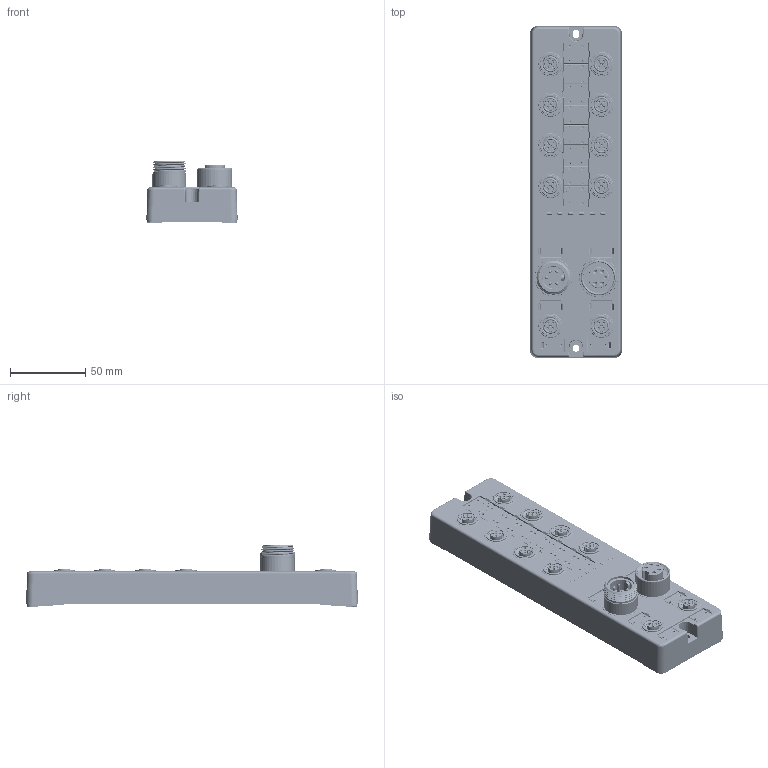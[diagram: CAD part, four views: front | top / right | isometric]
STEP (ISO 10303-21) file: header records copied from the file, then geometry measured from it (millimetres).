
FILE_DESCRIPTION(/* description */ (''),/* implementation_level */ '2;1');
FILE_NAME(/* name */ 'IP67_MASTER02-20250428.stp',/* time_stamp */ '2025-04-28T14:39:58+08:00',/* author */ (''),/* organization */ (''),/* preprocessor_version */ 'ST-DEVELOPER v16.7',/* originating_system */ 'SIEMENS PLM Software NX 12.0',/* authorisation */ '');
FILE_SCHEMA (('AUTOMOTIVE_DESIGN { 1 0 10303 214 3 1 1 1 }'));
Products named in the file (1): jq025118E077f04x
Bounding box: 60.77 x 220.77 x 40.9 mm (x, y, z)
Surface area: 61047.2 mm2 (no closed solid volume)
Topology: 0 solids, 1 shells, 3821 faces, 9931 edges, 6221 vertices
Faces by surface type: plane 1577, cylinder 1076, cone 373, extrusion 354, bspline 209, sphere 161, torus 71
Full cylindrical faces by diameter (mm): 1.05 x40, 1.1 x10, 1.2 x10, 1.3 x40, 1.85 x40, 2 x15, 2.1 x10, 2.15 x55, 2.6 x5, 3 x5, 4.5 x1, 10.92 x70, 12.2 x10, 14 x10, 14.6 x1, 17.6 x1, 17.75 x1, 21.76 x4, 22.6 x1, 23.5 x1
Entity records: 146161 total; most frequent: CARTESIAN_POINT 61207, ORIENTED_EDGE 17274, DIRECTION 16349, EDGE_CURVE 8637, VERTEX_POINT 5783, AXIS2_PLACEMENT_3D 5779, VECTOR 4791, EDGE_LOOP 4641
